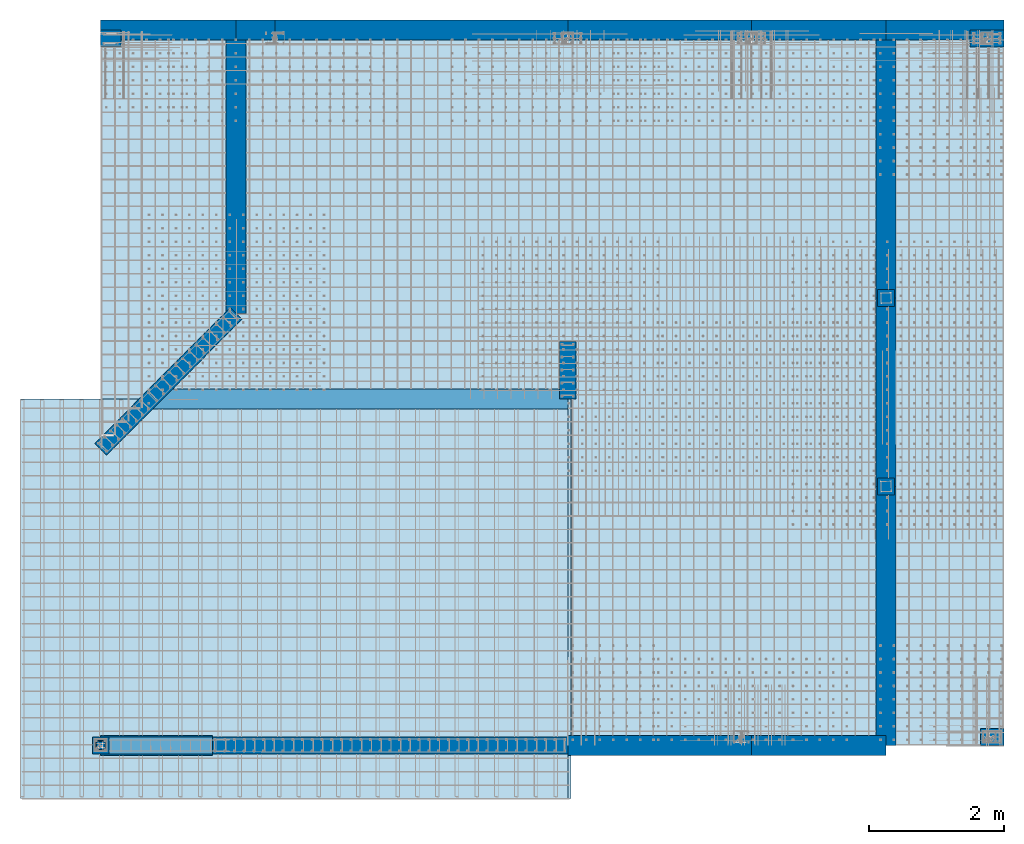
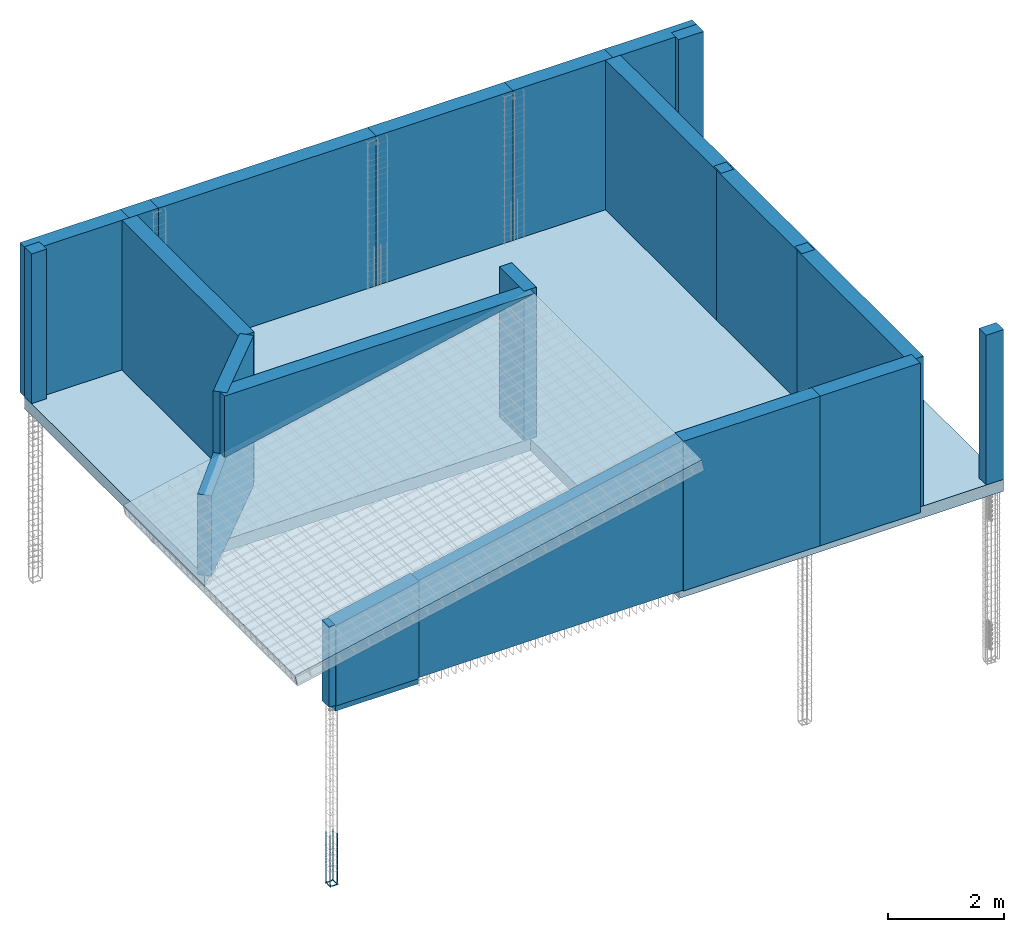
# One storey, part 1 of 17: 17 walls, 6 columns, 2 slabs, 1 beam, 1 reinforcing bar.
"""IFC4 building model written with IfcOpenShell, lengths in metres."""

from ifc_helpers import new_model, entity, si_unit, frame, origin_with_axes, origin_2d_with_axis, place, context, project, spatial, polyline, rectangle, outline, extrude, faceted_brep, source, transform, mapped, material, layer, layer_set, layer_usage, material_profile, profile_set, profile_usage, type_object, element, save


model = new_model("IFC4")

# Units and contexts
model_context = context("Model", 3, precision=1e-05, world=origin_with_axes())
ifc_project = project(units=[si_unit("LENGTHUNIT", "METRE"), si_unit("AREAUNIT", "SQUARE_METRE"), si_unit("VOLUMEUNIT", "CUBIC_METRE"), si_unit("MASSUNIT", "GRAM", prefix="KILO"), si_unit("TIMEUNIT", "SECOND"), si_unit("PLANEANGLEUNIT", "RADIAN"), si_unit("SOLIDANGLEUNIT", "STERADIAN"), si_unit("THERMODYNAMICTEMPERATUREUNIT", "DEGREE_CELSIUS")], contexts=[model_context])

# Site, building, storey
placement_1 = place(None, origin_with_axes())
site = spatial("IfcSite", under=ifc_project, at=placement_1, Name="Italia", CompositionType="ELEMENT")
building = spatial("IfcBuilding", under=site, at=placement_1, Name="Abitazione", CompositionType="ELEMENT")
storey_placement = place(None, frame((0.0, 0.0, 3.569999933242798), z_axis=(0.0, 0.0, 1.0), x_axis=(1.0, 0.0, 0.0)))
storey = spatial("IfcBuildingStorey", under=building, at=storey_placement, Name="Storey 1", CompositionType="ELEMENT", Elevation=3.569999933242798)

# Columns
ifc_material_1 = material(Name="Calcestruzzo classe C25/30", Category="Calcestruzzo classe C25/30")
ifc_material_profile = material_profile(ifc_material_1, rectangle(XDim=0.25, YDim=0.3, at=origin_2d_with_axis()), Name="4 PL 25x30 principale")
ifc_profile_set = profile_set([ifc_material_profile])
ifc_profile_usage_1 = profile_usage(ifc_profile_set, cardinal=5)
column_type_1 = type_object("IfcColumnType", Name="2 PL 25x25 principale", PredefinedType="COLUMN", material=ifc_profile_usage_1)
placement_2 = place(placement_1, origin_with_axes())
column_1_placement = place(placement_2, origin_with_axes())
element("IfcColumn", 1, at=column_1_placement, inside=storey, type_object=column_type_1, Name="1", context=model_context, shape_type="SweptSolid", body=[
    extrude(rectangle(XDim=0.25, YDim=0.25, at=origin_2d_with_axis()), frame((1.19, 0.79, 3.57), z_axis=(0.0, 0.0, 1.0), x_axis=(0.0, 1.0, 0.0)), (0.0, 0.0, 1.0), 1.7003),
])
ifc_profile_usage_2 = profile_usage(ifc_profile_set, cardinal=9)
column_type_2 = type_object("IfcColumnType", Name="8 PL 25x50 principale", PredefinedType="COLUMN", material=ifc_profile_usage_2)
column_2_placement = place(placement_2, origin_with_axes())
element("IfcColumn", 2, at=column_2_placement, inside=storey, type_object=column_type_2, Name="11", context=model_context, shape_type="SweptSolid", body=[
    extrude(rectangle(XDim=0.25, YDim=0.5, at=origin_2d_with_axis()), frame((14.36, 11.295, 3.57), z_axis=(0.0, 0.0, 1.0), x_axis=(0.0, 1.0, 0.0)), (0.0, 0.0, 1.0), 3.16),
])
ifc_profile_usage_3 = profile_usage(ifc_profile_set, cardinal=3)
column_type_3 = type_object("IfcColumnType", Name="4 PL 25x30 principale", PredefinedType="COLUMN", material=ifc_profile_usage_3)
column_3_placement = place(placement_2, origin_with_axes())
element("IfcColumn", 3, at=column_3_placement, inside=storey, type_object=column_type_3, Name="7", context=model_context, shape_type="SweptSolid", body=[
    extrude(rectangle(XDim=0.25, YDim=0.3, at=origin_2d_with_axis()), frame((1.34, 11.295, 3.57), z_axis=(0.0, 0.0, 1.0), x_axis=(0.0, 1.0, 0.0)), (0.0, 0.0, 1.0), 3.16),
])
ifc_profile_usage_4 = profile_usage(ifc_profile_set, cardinal=7)
column_type_4 = type_object("IfcColumnType", Name="7 PL 25x35 principale", PredefinedType="COLUMN", material=ifc_profile_usage_4)
column_4_placement = place(placement_2, origin_with_axes())
element("IfcColumn", 4, at=column_4_placement, inside=storey, type_object=column_type_4, Name="3", context=model_context, shape_type="SweptSolid", body=[
    extrude(rectangle(XDim=0.25, YDim=0.35, at=origin_2d_with_axis()), frame((14.435, 0.915, 3.57), z_axis=(0.0, 0.0, 1.0), x_axis=(0.0, 1.0, 0.0)), (0.0, 0.0, 1.0), 3.16),
])
ifc_profile_usage_5 = profile_usage(ifc_profile_set, cardinal=5)
column_type_5 = type_object("IfcColumnType", Name="3 PL 25x25 falso", PredefinedType="COLUMN", material=ifc_profile_usage_5)
column_5_placement = place(placement_2, origin_with_axes())
element("IfcColumn", 5, at=column_5_placement, inside=storey, type_object=column_type_5, Name="4", context=model_context, shape_type="SweptSolid", body=[
    extrude(rectangle(XDim=0.25, YDim=0.25, at=origin_2d_with_axis()), frame((12.86, 4.64, 3.57), z_axis=(0.0, 0.0, 1.0), x_axis=(0.0, 1.0, 0.0)), (0.0, 0.0, 1.0), 3.16),
])
ifc_profile_usage_6 = profile_usage(ifc_profile_set, cardinal=5)
column_type_6 = type_object("IfcColumnType", Name="3 PL 25x25 falso", PredefinedType="COLUMN", material=ifc_profile_usage_6)
column_6_placement = place(placement_2, origin_with_axes())
element("IfcColumn", 6, at=column_6_placement, inside=storey, type_object=column_type_6, Name="6", context=model_context, shape_type="SweptSolid", body=[
    extrude(rectangle(XDim=0.25, YDim=0.25, at=origin_2d_with_axis()), frame((12.86, 7.44, 3.57), z_axis=(0.0, 0.0, 1.0), x_axis=(0.0, 1.0, 0.0)), (0.0, 0.0, 1.0), 3.16),
])

# Beam
ifc_profile_usage_7 = profile_usage(ifc_profile_set, cardinal=5)
beam_type = type_object("IfcBeamType", Name="1 Cr 25x25", PredefinedType="BEAM", material=ifc_profile_usage_7)
beam_placement = place(placement_2, origin_with_axes())
element("IfcBeam", 7, at=beam_placement, inside=storey, type_object=beam_type, Name="101", context=model_context, shape_type="SweptSolid", body=[
    extrude(rectangle(XDim=0.25, YDim=0.25, at=origin_2d_with_axis()), frame((1.19, 0.79, 3.57), z_axis=(1.0, 0.0, 0.0), x_axis=(0.0, 1.0, 0.0)), (0.0, 0.0, 1.0), 1.66),
])

# Slabs
ifc_material_2 = material(Name="Calcestruzzo classe C25/30", Category="Calcestruzzo classe C25/30")
ifc_layer_1 = layer(ifc_material_2, 0.25)
ifc_layer_set_1 = layer_set([ifc_layer_1])
ifc_layer_usage_1 = layer_usage(ifc_layer_set_1, "AXIS3", "POSITIVE", -0.25)
slab_type_1 = type_object("IfcSlabType", Name="2 Soletta (S01) 25", PredefinedType="BASESLAB")
slab_1_placement = place(placement_2, origin_with_axes())
element("IfcSlab", 8, at=slab_1_placement, inside=storey, type_object=slab_type_1, material=ifc_layer_usage_1, context=model_context, shape_type="Brep", body=[
    faceted_brep([(1.19, 11.42, 3.57), (1.19, 11.42, 3.32), (14.61, 11.42, 3.32), (14.61, 11.42, 3.57), (14.61, 11.42, 3.57), (14.61, 11.42, 3.32), (14.61, 0.79, 3.32), (14.61, 0.79, 3.57), (14.61, 0.79, 3.57), (14.61, 0.79, 3.32), (8.13, 0.79, 3.32), (8.13, 0.79, 3.57), (8.13, 0.79, 3.57), (8.13, 0.79, 3.32), (8.13, 5.94, 3.32), (8.13, 5.94, 3.57), (8.13, 5.94, 3.57), (8.13, 5.94, 3.32), (1.93629, 5.94, 3.32), (1.93629, 5.94, 3.57), (1.93629, 5.94, 3.57), (1.93629, 5.94, 3.32), (1.19, 5.19, 3.32), (1.19, 5.19, 3.57), (1.19, 5.19, 3.57), (1.19, 5.19, 3.32), (1.19, 11.42, 3.32), (1.19, 11.42, 3.57), (1.19, 11.42, 3.32), (14.61, 11.42, 3.32), (14.61, 0.79, 3.32), (8.13, 0.79, 3.32), (8.13, 5.94, 3.32), (1.93629, 5.94, 3.32), (1.19, 5.19, 3.32), (1.19, 11.42, 3.57), (14.61, 11.42, 3.57), (14.61, 0.79, 3.57), (8.13, 0.79, 3.57), (8.13, 5.94, 3.57), (1.93629, 5.94, 3.57), (1.19, 5.19, 3.57)], [[[0, 1, 2, 3]], [[4, 5, 6, 7]], [[8, 9, 10, 11]], [[12, 13, 14, 15]], [[16, 17, 18, 19]], [[20, 21, 22, 23]], [[24, 25, 26, 27]], [[28, 29, 30, 31, 32, 33, 34]], [[35, 36, 37, 38, 39, 40, 41]]]),
])
ifc_material_3 = material(Name="Calcestruzzo classe C25/30", Category="Calcestruzzo classe C25/30")
ifc_layer_2 = layer(ifc_material_3, 0.25)
ifc_layer_set_2 = layer_set([ifc_layer_2])
ifc_layer_usage_2 = layer_usage(ifc_layer_set_2, "AXIS3", "POSITIVE", -0.25)
slab_type_2 = type_object("IfcSlabType", Name="6 Soletta (C) 25 inclinata", PredefinedType="BASESLAB")
slab_2_placement = place(placement_2, origin_with_axes())
element("IfcSlab", 9, at=slab_2_placement, inside=storey, type_object=slab_type_2, material=ifc_layer_usage_2, context=model_context, shape_type="Brep", body=[
    faceted_brep([(8.13, 0.0, 6.73), (8.18146, 0.0, 6.48535), (0.0514593, 0.0, 4.77535), (1.90735e-06, 0.0, 5.02), (1.90735e-06, 0.0, 5.02), (0.0514593, 0.0, 4.77535), (0.0514593, 5.94, 4.77535), (1.90735e-06, 5.94, 5.02), (1.90735e-06, 5.94, 5.02), (0.0514593, 5.94, 4.77535), (8.18146, 5.94, 6.48535), (8.13, 5.94, 6.73), (8.13, 5.94, 6.73), (8.18146, 5.94, 6.48535), (8.18146, 0.0, 6.48535), (8.13, 0.0, 6.73), (8.18146, 0.0, 6.48535), (0.0514593, 0.0, 4.77535), (0.0514593, 5.94, 4.77535), (8.18146, 5.94, 6.48535), (8.13, 0.0, 6.73), (1.90735e-06, 0.0, 5.02), (1.90735e-06, 5.94, 5.02), (8.13, 5.94, 6.73)], [[[0, 1, 2, 3]], [[4, 5, 6, 7]], [[8, 9, 10, 11]], [[12, 13, 14, 15]], [[16, 17, 18, 19]], [[20, 21, 22, 23]]]),
])

# Walls
ifc_material_4 = material(Name="Calcestruzzo classe C25/30", Category="Calcestruzzo classe C25/30")
ifc_layer_3 = layer(ifc_material_4, 0.25)
ifc_layer_set_3 = layer_set([ifc_layer_3])
ifc_layer_usage_3 = layer_usage(ifc_layer_set_3, "AXIS2", "POSITIVE", -0.25)
wall_type_1 = type_object("IfcWallType", Name="7 Parete 25", PredefinedType="STANDARD")
wall_1_placement = place(placement_2, origin_with_axes())
element("IfcWallStandardCase", 10, at=wall_1_placement, inside=storey, type_object=wall_type_1, material=ifc_layer_usage_3, Name="210", context=model_context, shape_type="SweptSolid", body=[
    extrude(rectangle(XDim=0.85, YDim=0.25, at=origin_2d_with_axis()), frame((8.13, 6.365, 3.57), z_axis=(0.0, 0.0, 1.0), x_axis=(0.0, 1.0, 0.0)), (0.0, 0.0, 1.0), 3.16),
])
ifc_material_5 = material(Name="Calcestruzzo classe C25/30", Category="Calcestruzzo classe C25/30")
ifc_layer_4 = layer(ifc_material_5, 0.25)
ifc_layer_set_4 = layer_set([ifc_layer_4])
ifc_layer_usage_4 = layer_usage(ifc_layer_set_4, "AXIS2", "POSITIVE", -0.25)
wall_type_2 = type_object("IfcWallType", Name="7 Parete 25", PredefinedType="STANDARD")
wall_2_placement = place(placement_2, origin_with_axes())
element("IfcWall", 11, at=wall_2_placement, inside=storey, type_object=wall_type_2, material=ifc_layer_usage_4, context=model_context, shape_type="Brep", body=[
    faceted_brep([(1.10139, 5.27817, 3.57), (1.27861, 5.10183, 3.57), (3.28861, 7.12183, 3.57), (3.11139, 7.29817, 3.57), (3.11139, 7.29817, 3.57), (3.28861, 7.12183, 3.57), (3.28861, 7.12183, 6.73), (3.11139, 7.29817, 6.73), (3.11139, 7.29817, 6.73), (3.28861, 7.12183, 6.73), (2.0249, 5.85183, 6.73), (1.84768, 6.02817, 6.73), (1.84768, 6.02817, 6.73), (2.0249, 5.85183, 6.73), (2.0249, 5.85183, 5.42726), (1.84768, 6.02817, 5.42726), (1.84768, 6.02817, 5.42726), (2.0249, 5.85183, 5.42726), (1.27861, 5.10183, 5.2703), (1.10139, 5.27817, 5.2703), (1.10139, 5.27817, 5.2703), (1.27861, 5.10183, 5.2703), (1.27861, 5.10183, 3.57), (1.10139, 5.27817, 3.57), (1.27861, 5.10183, 3.57), (3.28861, 7.12183, 3.57), (3.28861, 7.12183, 6.73), (2.0249, 5.85183, 6.73), (2.0249, 5.85183, 5.42726), (1.27861, 5.10183, 5.2703), (1.10139, 5.27817, 3.57), (3.11139, 7.29817, 3.57), (3.11139, 7.29817, 6.73), (1.84768, 6.02817, 6.73), (1.84768, 6.02817, 5.42726), (1.10139, 5.27817, 5.2703)], [[[0, 1, 2, 3]], [[4, 5, 6, 7]], [[8, 9, 10, 11]], [[12, 13, 14, 15]], [[16, 17, 18, 19]], [[20, 21, 22, 23]], [[24, 25, 26, 27, 28, 29]], [[30, 31, 32, 33, 34, 35]]]),
])
ifc_material_6 = material(Name="Calcestruzzo classe C25/30", Category="Calcestruzzo classe C25/30")
ifc_layer_5 = layer(ifc_material_6, 0.25)
ifc_layer_set_5 = layer_set([ifc_layer_5])
ifc_layer_usage_5 = layer_usage(ifc_layer_set_5, "AXIS2", "POSITIVE", -0.25)
wall_type_3 = type_object("IfcWallType", Name="7 Parete 25", PredefinedType="STANDARD")
wall_3_placement = place(placement_2, origin_with_axes())
element("IfcWall", 12, at=wall_3_placement, inside=storey, type_object=wall_type_3, material=ifc_layer_usage_5, context=model_context, shape_type="Brep", body=[
    faceted_brep([(2.85, 0.915, 3.57), (2.85, 0.665, 3.57), (8.13, 0.665, 3.57), (8.13, 0.915, 3.57), (8.13, 0.915, 3.57), (8.13, 0.665, 3.57), (8.13, 0.665, 6.73), (8.13, 0.915, 6.73), (8.13, 0.915, 6.73), (8.13, 0.665, 6.73), (2.85, 0.665, 5.61945), (2.85, 0.915, 5.61945), (2.85, 0.915, 5.61945), (2.85, 0.665, 5.61945), (2.85, 0.665, 3.57), (2.85, 0.915, 3.57), (2.85, 0.665, 3.57), (8.13, 0.665, 3.57), (8.13, 0.665, 6.73), (2.85, 0.665, 5.61945), (2.85, 0.915, 3.57), (8.13, 0.915, 3.57), (8.13, 0.915, 6.73), (2.85, 0.915, 5.61945)], [[[0, 1, 2, 3]], [[4, 5, 6, 7]], [[8, 9, 10, 11]], [[12, 13, 14, 15]], [[16, 17, 18, 19]], [[20, 21, 22, 23]]]),
])
ifc_material_7 = material(Name="TAMP 366", Category="TAMP 366")
wall_4_placement = place(placement_2, origin_with_axes())
element("IfcWall", 13, at=wall_4_placement, inside=storey, material=ifc_material_7, Name="201", context=model_context, shape_type="SweptSolid", body=[
    extrude(outline(polyline([(0.0, 0.0), (1.66, 0.0), (1.66, 0.280689), (1.66, 0.561378), (1.66, 0.842067), (1.66, 1.12276), (1.66, 1.40344), (1.66, 1.68413), (1.66, 1.96482), (1.66, 2.04945), (1.328, 1.97962), (0.996, 1.90979), (0.664, 1.83996), (0.332, 1.77013), (0.0, 1.7003), (0.0, 0.0)])), frame((1.19, 0.94, 3.57), z_axis=(0.0, -1.0, 0.0), x_axis=(1.0, 0.0, 0.0)), (0.0, 0.0, 1.0), 0.3),
])
ifc_material_8 = material(Name="TAMP 366", Category="TAMP 366")
wall_5_placement = place(placement_2, origin_with_axes())
element("IfcWall", 14, at=wall_5_placement, inside=storey, material=ifc_material_8, Name="202", context=model_context, shape_type="SweptSolid", body=[
    extrude(outline(polyline([(0.0, 0.0), (0.39, 0.0), (0.78, 0.0), (1.17, 0.0), (1.56, 0.0), (1.95, 0.0), (2.34, 0.0), (2.73, 0.0), (2.73, 3.16), (2.34, 3.16), (1.95, 3.16), (1.56, 3.16), (1.17, 3.16), (0.87, 3.16), (0.57, 3.16), (0.285, 3.16), (0.0, 3.16), (0.0, 1.96482), (0.0, 1.68413), (0.0, 1.40344), (0.0, 1.12276), (0.0, 0.842067), (0.0, 0.561378), (0.0, 0.280689), (0.0, 0.0)])), frame((8.13, 0.94, 3.57), z_axis=(0.0, -1.0, 0.0), x_axis=(1.0, 0.0, 0.0)), (0.0, 0.0, 1.0), 0.3),
])
ifc_material_9 = material(Name="TAMP 366", Category="TAMP 366")
wall_6_placement = place(placement_2, origin_with_axes())
element("IfcWall", 15, at=wall_6_placement, inside=storey, material=ifc_material_9, Name="103", context=model_context, shape_type="SweptSolid", body=[
    extrude(outline(polyline([(0.0, 0.0), (0.4, 0.0), (0.8, 0.0), (1.2, 0.0), (1.6, 0.0), (2.0, 0.0), (2.0, 3.16), (1.6, 3.16), (1.2, 3.16), (0.8, 3.16), (0.4, 3.16), (0.0, 3.16), (0.0, 0.0)])), frame((10.86, 0.94, 3.57), z_axis=(0.0, -1.0, 0.0), x_axis=(1.0, 0.0, 0.0)), (0.0, 0.0, 1.0), 0.3),
])
ifc_material_10 = material(Name="TAMP 366", Category="TAMP 366")
wall_7_placement = place(placement_2, origin_with_axes())
element("IfcWall", 16, at=wall_7_placement, inside=storey, material=ifc_material_10, Name="211", context=model_context, shape_type="SweptSolid", body=[
    extrude(outline(polyline([(0.0, 0.0), (0.35, 0.0), (0.7, 0.0), (1.17, 0.0), (1.4, 0.0), (1.75, 0.0), (1.75, 3.16), (1.4, 3.16), (1.05, 3.16), (0.7, 3.16), (0.35, 3.16), (0.0, 3.16), (0.0, 0.0)])), frame((14.61, 11.27, 3.57), z_axis=(0.0, 1.0, 0.0), x_axis=(-1.0, 0.0, 0.0)), (0.0, 0.0, 1.0), 0.299999),
])
ifc_material_11 = material(Name="TAMP 366", Category="TAMP 366")
wall_8_placement = place(placement_2, origin_with_axes())
element("IfcWall", 17, at=wall_8_placement, inside=storey, material=ifc_material_11, Name="209", context=model_context, shape_type="SweptSolid", body=[
    extrude(outline(polyline([(0.0, 0.0), (0.39, 0.0), (0.78, 0.0), (1.17, 0.0), (1.56, 0.0), (1.95, 0.0), (2.34, 0.0), (2.73, 0.0), (2.73, 3.16), (2.445, 3.16), (2.16, 3.16), (1.86, 3.16), (1.56, 3.16), (1.17, 3.16), (0.78, 3.16), (0.39, 3.16), (0.0, 3.16), (0.0, 0.0)])), frame((10.86, 11.27, 3.57), z_axis=(0.0, 1.0, 0.0), x_axis=(-1.0, 0.0, 0.0)), (0.0, 0.0, 1.0), 0.299999),
])
ifc_material_12 = material(Name="TAMP 366", Category="TAMP 366")
wall_9_placement = place(placement_2, origin_with_axes())
element("IfcWall", 18, at=wall_9_placement, inside=storey, material=ifc_material_12, Name="208", context=model_context, shape_type="SweptSolid", body=[
    extrude(outline(polyline([(0.0, 0.0), (0.395454, 0.0), (0.790909, 0.0), (1.18636, 0.0), (1.58182, 0.0), (1.97727, 0.0), (2.37273, 0.0), (2.76818, 0.0), (3.16364, 0.0), (3.55909, 0.0), (3.95455, 0.0), (4.35, 0.0), (4.35, 3.16), (3.95455, 3.16), (3.55909, 3.16), (3.16364, 3.16), (2.76818, 3.16), (2.37273, 3.16), (1.97727, 3.16), (1.58182, 3.16), (1.18636, 3.16), (0.790909, 3.16), (0.395454, 3.16), (0.0, 3.16), (0.0, 0.0)])), frame((8.13, 11.27, 3.57), z_axis=(0.0, 1.0, 0.0), x_axis=(-1.0, 0.0, 0.0)), (0.0, 0.0, 1.0), 0.299999),
])
ifc_material_13 = material(Name="TAMP 366", Category="TAMP 366")
wall_10_placement = place(placement_2, origin_with_axes())
element("IfcWall", 19, at=wall_10_placement, inside=storey, material=ifc_material_13, Name="207", context=model_context, shape_type="SweptSolid", body=[
    extrude(outline(polyline([(0.0, 0.0), (0.193333, 0.0), (0.386667, 0.0), (0.58, 0.0), (0.58, 3.16), (0.29, 3.16), (0.0, 3.16), (0.0, 0.0)])), frame((3.78, 11.27, 3.57), z_axis=(0.0, 1.0, 0.0), x_axis=(-1.0, 0.0, 0.0)), (0.0, 0.0, 1.0), 0.299999),
])
ifc_material_14 = material(Name="TAMP 366", Category="TAMP 366")
wall_11_placement = place(placement_2, origin_with_axes())
element("IfcWall", 20, at=wall_11_placement, inside=storey, material=ifc_material_14, Name="206", context=model_context, shape_type="SweptSolid", body=[
    extrude(outline(polyline([(0.0, 0.0), (0.335, 0.0), (0.67, 0.0), (1.005, 0.0), (1.34, 0.0), (1.675, 0.0), (2.01, 0.0), (2.01, 3.16), (1.675, 3.16), (1.34, 3.16), (1.005, 3.16), (0.67, 3.16), (0.335, 3.16), (0.0, 3.16), (0.0, 0.0)])), frame((3.2, 11.27, 3.57), z_axis=(0.0, 1.0, 0.0), x_axis=(-1.0, 0.0, 0.0)), (0.0, 0.0, 1.0), 0.299999),
])
ifc_material_15 = material(Name="TAMP 366", Category="TAMP 366")
wall_12_placement = place(placement_2, origin_with_axes())
element("IfcWall", 21, at=wall_12_placement, inside=storey, material=ifc_material_15, Name="312", context=model_context, shape_type="SweptSolid", body=[
    extrude(outline(polyline([(0.0, 0.0), (-0.306666, 0.0), (-0.613334, 0.0), (-0.92, 0.0), (-1.22, 0.0), (-1.52, 0.0), (-1.82, 0.0), (-2.21833, 0.0), (-2.61667, 0.0), (-3.015, 0.0), (-3.41333, 0.0), (-3.81167, 0.0), (-4.21, 0.0), (-4.21, -0.326), (-4.21, -0.652), (-4.21, -0.978), (-4.21, -1.304), (-4.21, -1.6752), (-4.21, -2.0464), (-4.21, -2.4176), (-4.21, -2.7888), (-4.21, -3.16), (-3.82727, -3.16), (-3.44455, -3.16), (-3.06182, -3.16), (-2.67909, -3.16), (-2.29636, -3.16), (-1.91364, -3.16), (-1.53091, -3.16), (-1.14818, -3.16), (-0.765454, -3.16), (-0.382728, -3.16), (0.0, -3.16), (0.0, 0.0)])), frame((3.05, 11.42, 6.73), z_axis=(1.0, 0.0, 0.0), x_axis=(0.0, 1.0, 0.0)), (0.0, 0.0, 1.0), 0.3),
])
ifc_material_16 = material(Name="TAMP 366", Category="TAMP 366")
wall_13_placement = place(placement_2, origin_with_axes())
element("IfcWall", 22, at=wall_13_placement, inside=storey, material=ifc_material_16, Name="215", context=model_context, shape_type="SweptSolid", body=[
    extrude(outline(polyline([(0.0, 0.0), (0.385, 0.0), (0.77, 0.0), (1.155, 0.0), (1.54, 0.0), (1.78, 0.0), (2.31, 0.0), (2.695, 0.0), (3.08, 0.0), (3.465, 0.0), (3.85, 0.0), (3.85, 3.16), (3.465, 3.16), (3.08, 3.16), (2.695, 3.16), (2.31, 3.16), (1.925, 3.16), (1.54, 3.16), (1.155, 3.16), (0.77, 3.16), (0.385, 3.16), (0.0, 3.16), (0.0, 0.0)])), frame((12.71, 0.79, 3.57), z_axis=(1.0, 0.0, 0.0), x_axis=(0.0, 1.0, 0.0)), (0.0, 0.0, 1.0), 0.299999),
])
ifc_material_17 = material(Name="TAMP 366", Category="TAMP 366")
wall_14_placement = place(placement_2, origin_with_axes())
element("IfcWall", 23, at=wall_14_placement, inside=storey, material=ifc_material_17, Name="116", context=model_context, shape_type="SweptSolid", body=[
    extrude(outline(polyline([(0.0, 0.0), (0.325, 0.0), (0.65, 0.0), (0.975, 0.0), (1.3, 0.0), (1.6175, 0.0), (1.935, 0.0), (2.2525, 0.0), (2.57, 0.0), (2.8, 0.0), (2.8, 3.16), (2.4, 3.16), (2.0, 3.16), (1.6, 3.16), (1.2, 3.16), (0.8, 3.16), (0.4, 3.16), (0.0, 3.16), (0.0, 0.0)])), frame((12.71, 4.64, 3.57), z_axis=(1.0, 0.0, 0.0), x_axis=(0.0, 1.0, 0.0)), (0.0, 0.0, 1.0), 0.299999),
])
ifc_material_18 = material(Name="TAMP 366", Category="TAMP 366")
wall_15_placement = place(placement_2, origin_with_axes())
element("IfcWall", 24, at=wall_15_placement, inside=storey, material=ifc_material_18, Name="117", context=model_context, shape_type="SweptSolid", body=[
    extrude(outline(polyline([(0.0, 0.0), (0.398, 0.0), (0.796, 0.0), (1.194, 0.0), (1.592, 0.0), (1.99, 0.0), (2.388, 0.0), (2.786, 0.0), (3.184, 0.0), (3.582, 0.0), (3.98, 0.0), (3.98, 3.16), (3.67333, 3.16), (3.36667, 3.16), (3.06, 3.16), (2.76, 3.16), (2.46, 3.16), (2.16, 3.16), (1.8, 3.16), (1.44, 3.16), (1.08, 3.16), (0.72, 3.16), (0.36, 3.16), (0.0, 3.16), (0.0, 0.0)])), frame((12.71, 7.44, 3.57), z_axis=(1.0, 0.0, 0.0), x_axis=(0.0, 1.0, 0.0)), (0.0, 0.0, 1.0), 0.299999),
])
ifc_material_19 = material(Name="TAMP 135", Category="TAMP 135")
wall_16_placement = place(placement_2, origin_with_axes())
element("IfcWall", 25, at=wall_16_placement, inside=storey, material=ifc_material_19, Name="204", context=model_context, shape_type="SweptSolid", body=[
    extrude(outline(polyline([(0.0, 0.0), (0.30038, 0.0631795), (0.607046, 0.127681), (0.913713, 0.192183), (1.29086, 0.271509), (1.668, 0.350834), (2.04514, 0.43016), (2.42228, 0.509485), (2.79943, 0.58881), (3.17657, 0.668135), (3.55371, 0.74746), (3.93085, 0.826785), (4.308, 0.906111), (4.68514, 0.985435), (5.06228, 1.06476), (5.43943, 1.14409), (5.81657, 1.22341), (6.19371, 1.30274), (5.81448, 1.30274), (5.43525, 1.30274), (5.05602, 1.30274), (4.67679, 1.30274), (4.29756, 1.30274), (3.91833, 1.30274), (3.5391, 1.30274), (3.15987, 1.30274), (2.78064, 1.30274), (2.40141, 1.30274), (2.02217, 1.30274), (1.64294, 1.30274), (1.26371, 1.30274), (1.11371, 1.30274), (0.738713, 1.30274), (0.363713, 1.30274), (0.0, 1.30274), (-2.38419e-07, 0.976743), (0.0, 0.650749), (0.0, 0.324755), (0.0, 0.0)])), frame((1.93629, 6.09, 5.42726), z_axis=(0.0, -1.0, 0.0), x_axis=(1.0, 0.0, 0.0)), (0.0, 0.0, 1.0), 0.3),
])
ifc_material_20 = material(Name="TAMP 366", Category="TAMP 366")
wall_17_placement = place(placement_2, origin_with_axes())
element("IfcWall", 26, at=wall_17_placement, inside=storey, material=ifc_material_20, Name="110", context=model_context, shape_type="SweptSolid", body=[
    extrude(outline(polyline([(0.0, 0.0), (0.4, 0.0), (0.8, 0.0), (1.2, 0.0), (1.6, 0.0), (2.0, 0.0), (2.0, 3.16), (1.6, 3.16), (1.2, 3.16), (0.8, 3.16), (0.4, 3.16), (0.0, 3.16), (0.0, 0.0)])), frame((12.86, 11.27, 3.57), z_axis=(0.0, 1.0, 0.0), x_axis=(-1.0, 0.0, 0.0)), (0.0, 0.0, 1.0), 0.299999),
])

# Reinforcing bar
shared_shape = source(origin_with_axes(), model_context, "Body", "AdvancedSweptSolid", [
    entity("IfcSweptDiskSolid", entity("IfcIndexedPolyCurve", entity("IfcCartesianPointList3D", [[1.281, 0.719, -0.265], [1.169, 0.719, -0.265], [1.14987, 0.719, -0.261194], [1.13364, 0.719, -0.250355], [1.12281, 0.719, -0.234134], [1.119, 0.719, -0.215], [1.119, 0.719, 0.8175]]), [entity("IfcLineIndex", [1, 2]), entity("IfcLineIndex", [2, 3]), entity("IfcLineIndex", [3, 4]), entity("IfcLineIndex", [4, 5]), entity("IfcLineIndex", [5, 6]), entity("IfcLineIndex", [6, 7])], False), 0.01),
])
reinforcing_bar_placement = place(placement_2, origin_with_axes())
element("IfcReinforcingBar", 27, at=reinforcing_bar_placement, inside=storey, BarLength=1.22254, CrossSectionArea=0.00031416, NominalDiameter=0.02, context=model_context, shape_type="MappedRepresentation", body=[
    mapped(shared_shape, transform((1.98, -0.4, 0.0), x_axis=(0.0, 1.0, 0.0), y_axis=(-1.0, 0.0, 0.0), z_axis=(0.0, 0.0, 1.0), scale=1.0)),
    mapped(shared_shape, transform((0.0, 0.0, 0.0), x_axis=(1.0, 0.0, 0.0), y_axis=(0.0, 1.0, 0.0), z_axis=(0.0, 0.0, 1.0), scale=1.0)),
    mapped(shared_shape, transform((0.399999, 1.98, 0.0), x_axis=(0.0, -1.0, 0.0), y_axis=(1.0, 0.0, 0.0), z_axis=(0.0, 0.0, 1.0), scale=1.0)),
    mapped(shared_shape, transform((2.38, 1.58, 0.0), x_axis=(-1.0, 0.0, 0.0), y_axis=(0.0, -1.0, 0.0), z_axis=(0.0, 0.0, 1.0), scale=1.0)),
])

save(model, "model.ifc")
